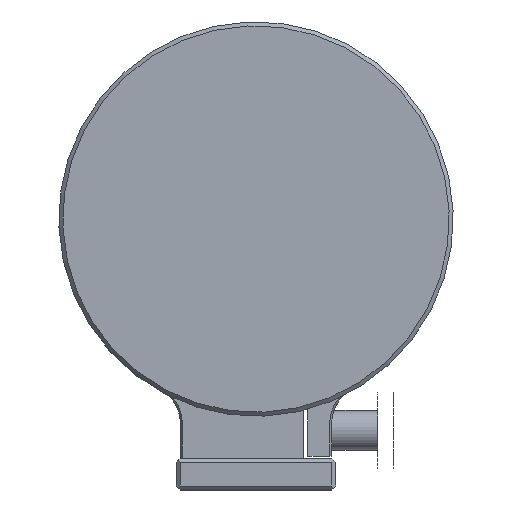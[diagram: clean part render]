
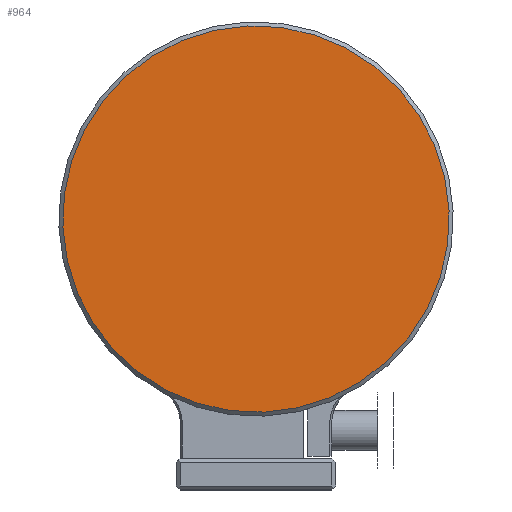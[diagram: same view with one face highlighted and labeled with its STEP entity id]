
A CAD part, left-side view. The second image highlights one B-rep face of the part: STEP entity #964.
In plain terms, the highlighted planar face has unit normal (-1, 0, 0).
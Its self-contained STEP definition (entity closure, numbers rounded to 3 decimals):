
#924=CARTESIAN_POINT('',(-60.106,23.156,-18.491));
#925=VERTEX_POINT('',#924);
#926=CARTESIAN_POINT('',(-60.106,-21.681,0.0));
#927=DIRECTION('',(1.0,0.,0.));
#928=DIRECTION('',(0.,0.924,-0.381));
#929=AXIS2_PLACEMENT_3D('',#926,#927,#928);
#930=CIRCLE('',#929,48.5);
#931=EDGE_CURVE('',#925,#925,#930,.T.);
#956=CARTESIAN_POINT('',(-60.106,22.443,-18.198));
#957=DIRECTION('',(-1.0,0.0,0.0));
#958=DIRECTION('',(0.0,0.381,0.924));
#959=AXIS2_PLACEMENT_3D('',#956,#957,#958);
#960=PLANE('',#959);
#961=ORIENTED_EDGE('',*,*,#931,.F.);
#962=EDGE_LOOP('',(#961));
#963=FACE_OUTER_BOUND('',#962,.T.);
#964=ADVANCED_FACE('',(#963),#960,.T.);
